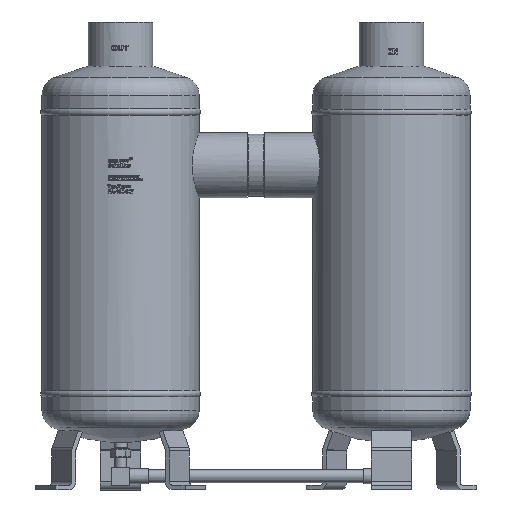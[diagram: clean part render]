
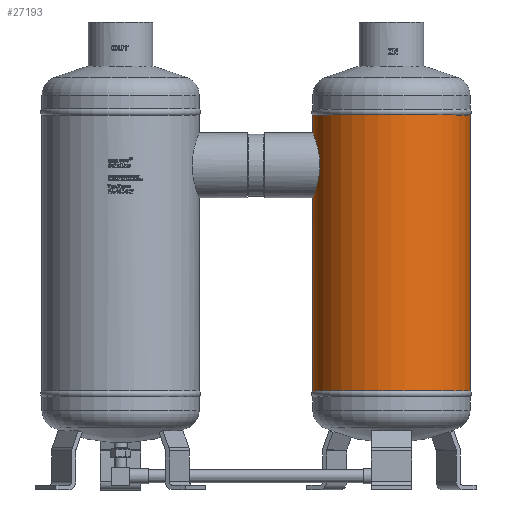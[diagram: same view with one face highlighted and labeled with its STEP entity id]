
A CAD part, top view. The second image highlights one B-rep face of the part: STEP entity #27193.
In plain terms, the highlighted cylindrical face has radius 136.6 mm (diameter 273.2 mm), a full revolution.
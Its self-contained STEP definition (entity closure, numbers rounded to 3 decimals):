
#5415=CYLINDRICAL_SURFACE('',#28507,136.6);
#5941=CIRCLE('',#28508,136.6);
#5942=CIRCLE('',#28509,136.6);
#6237=FACE_BOUND('',#9264,.T.);
#6238=FACE_BOUND('',#9265,.T.);
#7629=FACE_OUTER_BOUND('',#9263,.T.);
#9263=EDGE_LOOP('',(#24659));
#9264=EDGE_LOOP('',(#24660,#24661,#24662,#24663));
#9265=EDGE_LOOP('',(#24664));
#10936=B_SPLINE_CURVE_WITH_KNOTS('',3,(#59649,#59650,#59651,#59652,#59653,
#59654,#59655,#59656,#59657,#59658,#59659,#59660,#59661,#59662,#59663,#59664,
#59665,#59666,#59667,#59668,#59669,#59670,#59671,#59672,#59673,#59674,#59675,
#59676,#59677,#59678,#59679,#59680,#59681,#59682,#59683),.UNSPECIFIED.,
 .F.,.F.,(4,2,2,2,2,2,2,2,3,2,2,2,2,2,2,2,4),(26.327,26.885,
27.959,29.034,30.109,31.185,32.261,
33.337,34.413,35.489,36.565,37.641,
38.717,39.792,40.867,41.942,42.5),
 .UNSPECIFIED.);
#10937=B_SPLINE_CURVE_WITH_KNOTS('',3,(#59685,#59686,#59687,#59688,#59689,
#59690),.UNSPECIFIED.,.F.,.F.,(4,2,4),(5.755,6.267,
6.778),.UNSPECIFIED.);
#10938=B_SPLINE_CURVE_WITH_KNOTS('',3,(#59692,#59693,#59694,#59695,#59696,
#59697,#59698,#59699,#59700,#59701,#59702,#59703,#59704,#59705,#59706,#59707,
#59708,#59709,#59710,#59711,#59712,#59713,#59714,#59715,#59716,#59717,#59718,
#59719,#59720,#59721,#59722,#59723,#59724,#59725),.UNSPECIFIED.,.F.,.F.,
(4,2,2,2,2,2,2,2,2,2,2,2,2,2,2,2,4),(9.12,9.678,
10.753,11.828,12.902,13.979,15.055,
16.131,17.207,18.283,19.359,20.435,
21.511,22.586,23.66,24.735,25.293),
 .UNSPECIFIED.);
#10939=B_SPLINE_CURVE_WITH_KNOTS('',3,(#59726,#59727,#59728,#59729,#59730,
#59731),.UNSPECIFIED.,.F.,.F.,(4,2,4),(5.755,6.267,
6.778),.UNSPECIFIED.);
#13298=VERTEX_POINT('',#59645);
#13299=VERTEX_POINT('',#59647);
#13300=VERTEX_POINT('',#59648);
#13301=VERTEX_POINT('',#59684);
#13302=VERTEX_POINT('',#59691);
#13303=VERTEX_POINT('',#59732);
#17167=EDGE_CURVE('',#13298,#13298,#5941,.T.);
#17168=EDGE_CURVE('',#13299,#13300,#10936,.T.);
#17169=EDGE_CURVE('',#13301,#13300,#10937,.T.);
#17170=EDGE_CURVE('',#13301,#13302,#10938,.T.);
#17171=EDGE_CURVE('',#13299,#13302,#10939,.T.);
#17172=EDGE_CURVE('',#13303,#13303,#5942,.T.);
#24659=ORIENTED_EDGE('',*,*,#17167,.T.);
#24660=ORIENTED_EDGE('',*,*,#17168,.T.);
#24661=ORIENTED_EDGE('',*,*,#17169,.F.);
#24662=ORIENTED_EDGE('',*,*,#17170,.T.);
#24663=ORIENTED_EDGE('',*,*,#17171,.F.);
#24664=ORIENTED_EDGE('',*,*,#17172,.F.);
#27193=ADVANCED_FACE('',(#7629,#6237,#6238),#5415,.T.);
#28507=AXIS2_PLACEMENT_3D('',#59644,#32784,#32785);
#28508=AXIS2_PLACEMENT_3D('',#59646,#32786,#32787);
#28509=AXIS2_PLACEMENT_3D('',#59733,#32788,#32789);
#32784=DIRECTION('center_axis',(0.,-1.,0.));
#32785=DIRECTION('ref_axis',(1.,0.,0.));
#32786=DIRECTION('center_axis',(0.,-1.,0.));
#32787=DIRECTION('ref_axis',(1.,0.,0.));
#32788=DIRECTION('center_axis',(0.,-1.,0.));
#32789=DIRECTION('ref_axis',(1.,0.,0.));
#59644=CARTESIAN_POINT('Origin',(471.,231.283,0.));
#59645=CARTESIAN_POINT('',(607.6,482.447,0.));
#59646=CARTESIAN_POINT('Origin',(471.,482.447,0.));
#59647=CARTESIAN_POINT('',(334.5,451.107,5.226));
#59648=CARTESIAN_POINT('',(334.5,338.893,5.226));
#59649=CARTESIAN_POINT('Ctrl Pts',(334.5,451.107,5.226));
#59650=CARTESIAN_POINT('Ctrl Pts',(334.573,450.93,7.124));
#59651=CARTESIAN_POINT('Ctrl Pts',(334.686,450.655,9.033));
#59652=CARTESIAN_POINT('Ctrl Pts',(335.132,449.556,14.591));
#59653=CARTESIAN_POINT('Ctrl Pts',(335.575,448.456,18.217));
#59654=CARTESIAN_POINT('Ctrl Pts',(336.689,445.567,25.147));
#59655=CARTESIAN_POINT('Ctrl Pts',(337.36,443.775,28.458));
#59656=CARTESIAN_POINT('Ctrl Pts',(338.809,439.653,34.569));
#59657=CARTESIAN_POINT('Ctrl Pts',(339.585,437.322,37.369));
#59658=CARTESIAN_POINT('Ctrl Pts',(341.097,432.366,42.325));
#59659=CARTESIAN_POINT('Ctrl Pts',(341.887,429.565,44.656));
#59660=CARTESIAN_POINT('Ctrl Pts',(343.387,423.455,48.777));
#59661=CARTESIAN_POINT('Ctrl Pts',(344.095,420.146,50.568));
#59662=CARTESIAN_POINT('Ctrl Pts',(345.284,413.22,53.455));
#59663=CARTESIAN_POINT('Ctrl Pts',(345.764,409.596,54.554));
#59664=CARTESIAN_POINT('Ctrl Pts',(346.405,402.28,56.002));
#59665=CARTESIAN_POINT('Ctrl Pts',(346.564,398.587,56.35));
#59666=CARTESIAN_POINT('Ctrl Pts',(346.564,395.,56.35));
#59667=CARTESIAN_POINT('Ctrl Pts',(346.564,391.413,56.35));
#59668=CARTESIAN_POINT('Ctrl Pts',(346.405,387.72,56.002));
#59669=CARTESIAN_POINT('Ctrl Pts',(345.764,380.404,54.554));
#59670=CARTESIAN_POINT('Ctrl Pts',(345.284,376.78,53.455));
#59671=CARTESIAN_POINT('Ctrl Pts',(344.095,369.854,50.568));
#59672=CARTESIAN_POINT('Ctrl Pts',(343.387,366.545,48.777));
#59673=CARTESIAN_POINT('Ctrl Pts',(341.887,360.435,44.656));
#59674=CARTESIAN_POINT('Ctrl Pts',(341.097,357.634,42.325));
#59675=CARTESIAN_POINT('Ctrl Pts',(339.585,352.678,37.369));
#59676=CARTESIAN_POINT('Ctrl Pts',(338.809,350.347,34.569));
#59677=CARTESIAN_POINT('Ctrl Pts',(337.36,346.225,28.458));
#59678=CARTESIAN_POINT('Ctrl Pts',(336.689,344.433,25.147));
#59679=CARTESIAN_POINT('Ctrl Pts',(335.575,341.544,18.217));
#59680=CARTESIAN_POINT('Ctrl Pts',(335.132,340.444,14.591));
#59681=CARTESIAN_POINT('Ctrl Pts',(334.686,339.345,9.033));
#59682=CARTESIAN_POINT('Ctrl Pts',(334.573,339.07,7.124));
#59683=CARTESIAN_POINT('Ctrl Pts',(334.5,338.893,5.226));
#59684=CARTESIAN_POINT('',(334.5,338.893,-5.226));
#59685=CARTESIAN_POINT('Ctrl Pts',(334.5,338.893,-5.226));
#59686=CARTESIAN_POINT('Ctrl Pts',(334.432,338.728,-3.455));
#59687=CARTESIAN_POINT('Ctrl Pts',(334.4,338.65,-1.705));
#59688=CARTESIAN_POINT('Ctrl Pts',(334.4,338.65,1.705));
#59689=CARTESIAN_POINT('Ctrl Pts',(334.432,338.728,3.455));
#59690=CARTESIAN_POINT('Ctrl Pts',(334.5,338.893,5.226));
#59691=CARTESIAN_POINT('',(334.5,451.107,-5.226));
#59692=CARTESIAN_POINT('Ctrl Pts',(334.5,338.893,-5.226));
#59693=CARTESIAN_POINT('Ctrl Pts',(334.573,339.07,-7.124));
#59694=CARTESIAN_POINT('Ctrl Pts',(334.686,339.345,-9.033));
#59695=CARTESIAN_POINT('Ctrl Pts',(335.132,340.444,-14.591));
#59696=CARTESIAN_POINT('Ctrl Pts',(335.575,341.544,-18.217));
#59697=CARTESIAN_POINT('Ctrl Pts',(336.689,344.433,-25.147));
#59698=CARTESIAN_POINT('Ctrl Pts',(337.36,346.225,-28.458));
#59699=CARTESIAN_POINT('Ctrl Pts',(338.809,350.347,-34.569));
#59700=CARTESIAN_POINT('Ctrl Pts',(339.585,352.678,-37.369));
#59701=CARTESIAN_POINT('Ctrl Pts',(341.097,357.634,-42.325));
#59702=CARTESIAN_POINT('Ctrl Pts',(341.887,360.435,-44.656));
#59703=CARTESIAN_POINT('Ctrl Pts',(343.387,366.545,-48.777));
#59704=CARTESIAN_POINT('Ctrl Pts',(344.095,369.854,-50.568));
#59705=CARTESIAN_POINT('Ctrl Pts',(345.284,376.78,-53.455));
#59706=CARTESIAN_POINT('Ctrl Pts',(345.764,380.404,-54.554));
#59707=CARTESIAN_POINT('Ctrl Pts',(346.405,387.72,-56.002));
#59708=CARTESIAN_POINT('Ctrl Pts',(346.564,391.413,-56.35));
#59709=CARTESIAN_POINT('Ctrl Pts',(346.564,398.587,-56.35));
#59710=CARTESIAN_POINT('Ctrl Pts',(346.405,402.28,-56.002));
#59711=CARTESIAN_POINT('Ctrl Pts',(345.764,409.596,-54.554));
#59712=CARTESIAN_POINT('Ctrl Pts',(345.284,413.22,-53.455));
#59713=CARTESIAN_POINT('Ctrl Pts',(344.095,420.146,-50.568));
#59714=CARTESIAN_POINT('Ctrl Pts',(343.387,423.455,-48.777));
#59715=CARTESIAN_POINT('Ctrl Pts',(341.887,429.565,-44.656));
#59716=CARTESIAN_POINT('Ctrl Pts',(341.097,432.366,-42.325));
#59717=CARTESIAN_POINT('Ctrl Pts',(339.585,437.322,-37.369));
#59718=CARTESIAN_POINT('Ctrl Pts',(338.809,439.653,-34.569));
#59719=CARTESIAN_POINT('Ctrl Pts',(337.36,443.775,-28.458));
#59720=CARTESIAN_POINT('Ctrl Pts',(336.689,445.567,-25.147));
#59721=CARTESIAN_POINT('Ctrl Pts',(335.575,448.456,-18.217));
#59722=CARTESIAN_POINT('Ctrl Pts',(335.132,449.556,-14.591));
#59723=CARTESIAN_POINT('Ctrl Pts',(334.686,450.655,-9.033));
#59724=CARTESIAN_POINT('Ctrl Pts',(334.573,450.93,-7.124));
#59725=CARTESIAN_POINT('Ctrl Pts',(334.5,451.107,-5.226));
#59726=CARTESIAN_POINT('Ctrl Pts',(334.5,451.107,5.226));
#59727=CARTESIAN_POINT('Ctrl Pts',(334.432,451.272,3.455));
#59728=CARTESIAN_POINT('Ctrl Pts',(334.4,451.35,1.705));
#59729=CARTESIAN_POINT('Ctrl Pts',(334.4,451.35,-1.705));
#59730=CARTESIAN_POINT('Ctrl Pts',(334.432,451.272,-3.455));
#59731=CARTESIAN_POINT('Ctrl Pts',(334.5,451.107,-5.226));
#59732=CARTESIAN_POINT('',(607.6,3.06,0.));
#59733=CARTESIAN_POINT('Origin',(471.,3.06,0.));
